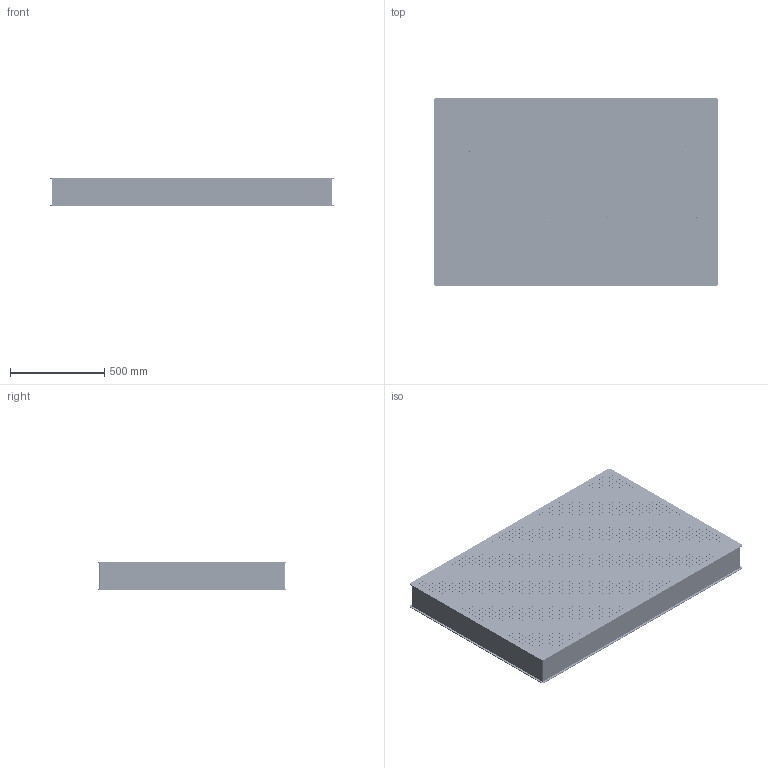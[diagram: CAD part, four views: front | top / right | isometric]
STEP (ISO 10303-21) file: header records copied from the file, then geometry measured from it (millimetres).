
FILE_DESCRIPTION (( 'STEP AP203' ), '1' );
FILE_NAME ('NTBP1015-150 怢醱 AP203.STEP', '2025-02-12T07:45:31', ( '13701099104@139.COM' ), ( '' ), 'SwSTEP 2.0', 'SolidWorks 2021', '' );
FILE_SCHEMA (( 'CONFIG_CONTROL_DESIGN' ));
Products named in the file (1): NTBP1015-150 怢醱 AP203
Bounding box: 1500 x 1000 x 151 mm (x, y, z)
Surface area: 6930768.5 mm2 (no closed solid volume)
Topology: 0 solids, 30 shells, 4452 faces, 13633 edges, 9214 vertices
Faces by surface type: cylinder 4388, plane 64
Entity records: 166824 total; most frequent: DIRECTION 31380, CARTESIAN_POINT 27301, ORIENTED_EDGE 26840, EDGE_CURVE 13634, AXIS2_PLACEMENT_3D 13293, VERTEX_POINT 9214, EDGE_LOOP 8860, CIRCLE 8840
